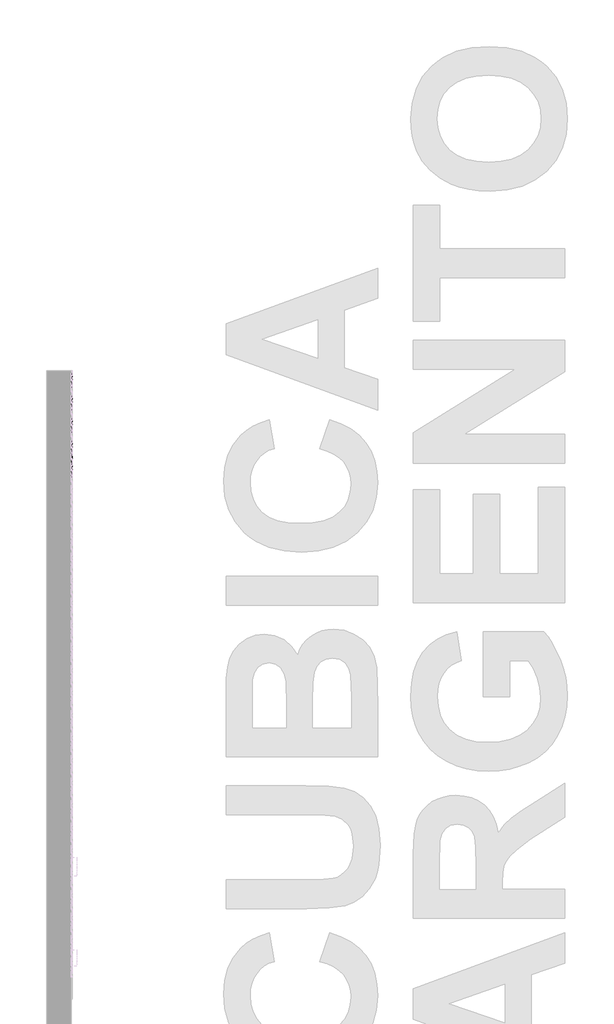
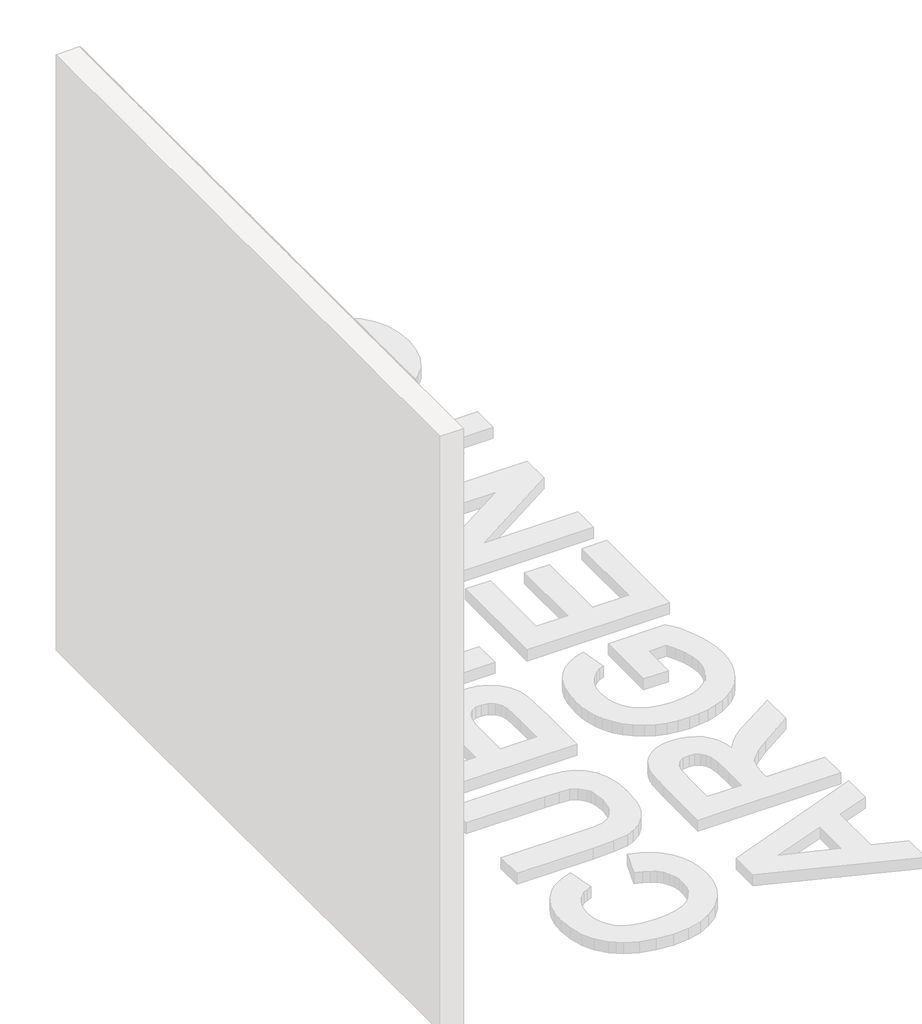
# One storey, part 22 of 121: 144 proxies.
"""IFC4 building model written with IfcOpenShell, lengths in millimetres."""

from ifc_helpers import new_model, si_unit, origin, place, context, project, spatial, transform, mapped, element, save
from components import generic_models_b2b2c5c1, generic_models_9bf73f6f, generic_models_5d175859, generic_models_336a48c1, generic_models_3c04e8e5, generic_models_61989c10, generic_models_7dea52c4

model = new_model("IFC4")

# Units and contexts
model_context = context("Model", 3, world=origin())
ifc_project = project(units=[si_unit("LENGTHUNIT", "METRE", prefix="MILLI")], contexts=[model_context])

# Site, building, storey
site = spatial("IfcSite", under=ifc_project)
building = spatial("IfcBuilding", under=site)
storey = spatial("IfcBuildingStorey", under=building, Name="PORTOBELLO - SHOWROOM", Elevation=0.0)

# Proxies
placement = place(None, origin())
generic_models_shape = generic_models_b2b2c5c1(model_context)
element("IfcBuildingElementProxy", 1, Name="PBSHOP - CUBICA ARGENTO 4,8X8,3 : CUBICA ARGENTO - POSIÇÃO 01", ObjectType="PBSHOP - CUBICA ARGENTO 4,8X8,3 : CUBICA ARGENTO - POSIÇÃO 01", at=placement, inside=storey, context=model_context, shape_type="MappedRepresentation", body=[
    mapped(generic_models_shape, transform((150369.5341846, -3859.9527156, 513.0299971), x_axis=(0.0, 1.0, 0.0), y_axis=(0.0, 0.0, 1.0), z_axis=(1.0, 0.0, 0.0))),
])
element("IfcBuildingElementProxy", 2, Name="PBSHOP - CUBICA ARGENTO 4,8X8,3 : CUBICA ARGENTO - POSIÇÃO 01", ObjectType="PBSHOP - CUBICA ARGENTO 4,8X8,3 : CUBICA ARGENTO - POSIÇÃO 01", at=placement, inside=storey, context=model_context, shape_type="MappedRepresentation", body=[
    mapped(generic_models_shape, transform((150369.5341846, -3769.1134464, 513.0299971), x_axis=(0.0, 1.0, 0.0), y_axis=(0.0, 0.0, 1.0), z_axis=(1.0, 0.0, 0.0))),
])
element("IfcBuildingElementProxy", 3, Name="PBSHOP - CUBICA ARGENTO 4,8X8,3 : CUBICA ARGENTO - POSIÇÃO 01", ObjectType="PBSHOP - CUBICA ARGENTO 4,8X8,3 : CUBICA ARGENTO - POSIÇÃO 01", at=placement, inside=storey, context=model_context, shape_type="MappedRepresentation", body=[
    mapped(generic_models_shape, transform((150369.5341846, -3678.2741771, 513.0299971), x_axis=(0.0, 1.0, 0.0), y_axis=(0.0, 0.0, 1.0), z_axis=(1.0, 0.0, 0.0))),
])
element("IfcBuildingElementProxy", 4, Name="PBSHOP - CUBICA ARGENTO 4,8X8,3 : CUBICA ARGENTO - POSIÇÃO 01", ObjectType="PBSHOP - CUBICA ARGENTO 4,8X8,3 : CUBICA ARGENTO - POSIÇÃO 01", at=placement, inside=storey, context=model_context, shape_type="MappedRepresentation", body=[
    mapped(generic_models_shape, transform((150369.5341846, -3996.2116195, 591.9646354), x_axis=(0.0, 1.0, 0.0), y_axis=(0.0, 0.0, 1.0), z_axis=(1.0, 0.0, 0.0))),
])
element("IfcBuildingElementProxy", 5, Name="PBSHOP - CUBICA ARGENTO 4,8X8,3 : CUBICA ARGENTO - POSIÇÃO 01", ObjectType="PBSHOP - CUBICA ARGENTO 4,8X8,3 : CUBICA ARGENTO - POSIÇÃO 01", at=placement, inside=storey, context=model_context, shape_type="MappedRepresentation", body=[
    mapped(generic_models_shape, transform((150369.5341846, -3905.3723502, 591.9646354), x_axis=(0.0, 1.0, 0.0), y_axis=(0.0, 0.0, 1.0), z_axis=(1.0, 0.0, 0.0))),
])
element("IfcBuildingElementProxy", 6, Name="PBSHOP - CUBICA ARGENTO 4,8X8,3 : CUBICA ARGENTO - POSIÇÃO 01", ObjectType="PBSHOP - CUBICA ARGENTO 4,8X8,3 : CUBICA ARGENTO - POSIÇÃO 01", at=placement, inside=storey, context=model_context, shape_type="MappedRepresentation", body=[
    mapped(generic_models_shape, transform((150369.5341846, -3814.533081, 591.9646354), x_axis=(0.0, 1.0, 0.0), y_axis=(0.0, 0.0, 1.0), z_axis=(1.0, 0.0, 0.0))),
])
element("IfcBuildingElementProxy", 7, Name="PBSHOP - CUBICA ARGENTO 4,8X8,3 : CUBICA ARGENTO - POSIÇÃO 01", ObjectType="PBSHOP - CUBICA ARGENTO 4,8X8,3 : CUBICA ARGENTO - POSIÇÃO 01", at=placement, inside=storey, context=model_context, shape_type="MappedRepresentation", body=[
    mapped(generic_models_shape, transform((150369.5341846, -3723.6938117, 591.9646354), x_axis=(0.0, 1.0, 0.0), y_axis=(0.0, 0.0, 1.0), z_axis=(1.0, 0.0, 0.0))),
])
element("IfcBuildingElementProxy", 8, Name="PBSHOP - CUBICA ARGENTO 4,8X8,3 : CUBICA ARGENTO - POSIÇÃO 01", ObjectType="PBSHOP - CUBICA ARGENTO 4,8X8,3 : CUBICA ARGENTO - POSIÇÃO 01", at=placement, inside=storey, context=model_context, shape_type="MappedRepresentation", body=[
    mapped(generic_models_shape, transform((150369.5341846, -3632.8545425, 591.9646354), x_axis=(0.0, 1.0, 0.0), y_axis=(0.0, 0.0, 1.0), z_axis=(1.0, 0.0, 0.0))),
])
element("IfcBuildingElementProxy", 9, Name="PBSHOP - CUBICA ARGENTO 4,8X8,3 : CUBICA ARGENTO - POSIÇÃO 01", ObjectType="PBSHOP - CUBICA ARGENTO 4,8X8,3 : CUBICA ARGENTO - POSIÇÃO 01", at=placement, inside=storey, context=model_context, shape_type="MappedRepresentation", body=[
    mapped(generic_models_shape, transform((150369.5341846, -3950.7919848, 670.8992738), x_axis=(0.0, 1.0, 0.0), y_axis=(0.0, 0.0, 1.0), z_axis=(1.0, 0.0, 0.0))),
])
element("IfcBuildingElementProxy", 10, Name="PBSHOP - CUBICA ARGENTO 4,8X8,3 : CUBICA ARGENTO - POSIÇÃO 01", ObjectType="PBSHOP - CUBICA ARGENTO 4,8X8,3 : CUBICA ARGENTO - POSIÇÃO 01", at=placement, inside=storey, context=model_context, shape_type="MappedRepresentation", body=[
    mapped(generic_models_shape, transform((150369.5341846, -3859.9527156, 670.8992738), x_axis=(0.0, 1.0, 0.0), y_axis=(0.0, 0.0, 1.0), z_axis=(1.0, 0.0, 0.0))),
])
element("IfcBuildingElementProxy", 11, Name="PBSHOP - CUBICA ARGENTO 4,8X8,3 : CUBICA ARGENTO - POSIÇÃO 01", ObjectType="PBSHOP - CUBICA ARGENTO 4,8X8,3 : CUBICA ARGENTO - POSIÇÃO 01", at=placement, inside=storey, context=model_context, shape_type="MappedRepresentation", body=[
    mapped(generic_models_shape, transform((150369.5341846, -3769.1134464, 670.8992738), x_axis=(0.0, 1.0, 0.0), y_axis=(0.0, 0.0, 1.0), z_axis=(1.0, 0.0, 0.0))),
])
element("IfcBuildingElementProxy", 12, Name="PBSHOP - CUBICA ARGENTO 4,8X8,3 : CUBICA ARGENTO - POSIÇÃO 01", ObjectType="PBSHOP - CUBICA ARGENTO 4,8X8,3 : CUBICA ARGENTO - POSIÇÃO 01", at=placement, inside=storey, context=model_context, shape_type="MappedRepresentation", body=[
    mapped(generic_models_shape, transform((150369.5341846, -3678.2741771, 670.8992738), x_axis=(0.0, 1.0, 0.0), y_axis=(0.0, 0.0, 1.0), z_axis=(1.0, 0.0, 0.0))),
])
element("IfcBuildingElementProxy", 13, Name="PBSHOP - CUBICA ARGENTO 4,8X8,3 : CUBICA ARGENTO - POSIÇÃO 01", ObjectType="PBSHOP - CUBICA ARGENTO 4,8X8,3 : CUBICA ARGENTO - POSIÇÃO 01", at=placement, inside=storey, context=model_context, shape_type="MappedRepresentation", body=[
    mapped(generic_models_shape, transform((150369.5341846, -3996.2116195, 749.8339122), x_axis=(0.0, 1.0, 0.0), y_axis=(0.0, 0.0, 1.0), z_axis=(1.0, 0.0, 0.0))),
])
element("IfcBuildingElementProxy", 14, Name="PBSHOP - CUBICA ARGENTO 4,8X8,3 : CUBICA ARGENTO - POSIÇÃO 01", ObjectType="PBSHOP - CUBICA ARGENTO 4,8X8,3 : CUBICA ARGENTO - POSIÇÃO 01", at=placement, inside=storey, context=model_context, shape_type="MappedRepresentation", body=[
    mapped(generic_models_shape, transform((150369.5341846, -3905.3723502, 749.8339122), x_axis=(0.0, 1.0, 0.0), y_axis=(0.0, 0.0, 1.0), z_axis=(1.0, 0.0, 0.0))),
])
element("IfcBuildingElementProxy", 15, Name="PBSHOP - CUBICA ARGENTO 4,8X8,3 : CUBICA ARGENTO - POSIÇÃO 01", ObjectType="PBSHOP - CUBICA ARGENTO 4,8X8,3 : CUBICA ARGENTO - POSIÇÃO 01", at=placement, inside=storey, context=model_context, shape_type="MappedRepresentation", body=[
    mapped(generic_models_shape, transform((150369.5341846, -3814.533081, 749.8339122), x_axis=(0.0, 1.0, 0.0), y_axis=(0.0, 0.0, 1.0), z_axis=(1.0, 0.0, 0.0))),
])
element("IfcBuildingElementProxy", 16, Name="PBSHOP - CUBICA ARGENTO 4,8X8,3 : CUBICA ARGENTO - POSIÇÃO 01", ObjectType="PBSHOP - CUBICA ARGENTO 4,8X8,3 : CUBICA ARGENTO - POSIÇÃO 01", at=placement, inside=storey, context=model_context, shape_type="MappedRepresentation", body=[
    mapped(generic_models_shape, transform((150369.5341846, -3723.6938117, 749.8339122), x_axis=(0.0, 1.0, 0.0), y_axis=(0.0, 0.0, 1.0), z_axis=(1.0, 0.0, 0.0))),
])
element("IfcBuildingElementProxy", 17, Name="PBSHOP - CUBICA ARGENTO 4,8X8,3 : CUBICA ARGENTO - POSIÇÃO 01", ObjectType="PBSHOP - CUBICA ARGENTO 4,8X8,3 : CUBICA ARGENTO - POSIÇÃO 01", at=placement, inside=storey, context=model_context, shape_type="MappedRepresentation", body=[
    mapped(generic_models_shape, transform((150369.5341846, -3632.8545425, 749.8339122), x_axis=(0.0, 1.0, 0.0), y_axis=(0.0, 0.0, 1.0), z_axis=(1.0, 0.0, 0.0))),
])
element("IfcBuildingElementProxy", 18, Name="PBSHOP - CUBICA ARGENTO 4,8X8,3 : CUBICA ARGENTO - POSIÇÃO 01", ObjectType="PBSHOP - CUBICA ARGENTO 4,8X8,3 : CUBICA ARGENTO - POSIÇÃO 01", at=placement, inside=storey, context=model_context, shape_type="MappedRepresentation", body=[
    mapped(generic_models_shape, transform((150369.5341846, -3950.7919848, 828.7685506), x_axis=(0.0, 1.0, 0.0), y_axis=(0.0, 0.0, 1.0), z_axis=(1.0, 0.0, 0.0))),
])
element("IfcBuildingElementProxy", 19, Name="PBSHOP - CUBICA ARGENTO 4,8X8,3 : CUBICA ARGENTO - POSIÇÃO 01", ObjectType="PBSHOP - CUBICA ARGENTO 4,8X8,3 : CUBICA ARGENTO - POSIÇÃO 01", at=placement, inside=storey, context=model_context, shape_type="MappedRepresentation", body=[
    mapped(generic_models_shape, transform((150369.5341846, -3859.9527156, 828.7685506), x_axis=(0.0, 1.0, 0.0), y_axis=(0.0, 0.0, 1.0), z_axis=(1.0, 0.0, 0.0))),
])
element("IfcBuildingElementProxy", 20, Name="PBSHOP - CUBICA ARGENTO 4,8X8,3 : CUBICA ARGENTO - POSIÇÃO 01", ObjectType="PBSHOP - CUBICA ARGENTO 4,8X8,3 : CUBICA ARGENTO - POSIÇÃO 01", at=placement, inside=storey, context=model_context, shape_type="MappedRepresentation", body=[
    mapped(generic_models_shape, transform((150369.5341846, -3769.1134464, 828.7685506), x_axis=(0.0, 1.0, 0.0), y_axis=(0.0, 0.0, 1.0), z_axis=(1.0, 0.0, 0.0))),
])
element("IfcBuildingElementProxy", 21, Name="PBSHOP - CUBICA ARGENTO 4,8X8,3 : CUBICA ARGENTO - POSIÇÃO 01", ObjectType="PBSHOP - CUBICA ARGENTO 4,8X8,3 : CUBICA ARGENTO - POSIÇÃO 01", at=placement, inside=storey, context=model_context, shape_type="MappedRepresentation", body=[
    mapped(generic_models_shape, transform((150369.5341846, -3678.2741771, 828.7685506), x_axis=(0.0, 1.0, 0.0), y_axis=(0.0, 0.0, 1.0), z_axis=(1.0, 0.0, 0.0))),
])
element("IfcBuildingElementProxy", 22, Name="PBSHOP - CUBICA ARGENTO 4,8X8,3 : CUBICA ARGENTO - POSIÇÃO 01", ObjectType="PBSHOP - CUBICA ARGENTO 4,8X8,3 : CUBICA ARGENTO - POSIÇÃO 01", at=placement, inside=storey, context=model_context, shape_type="MappedRepresentation", body=[
    mapped(generic_models_shape, transform((150369.5341846, -3996.2116195, 907.7031889), x_axis=(0.0, 1.0, 0.0), y_axis=(0.0, 0.0, 1.0), z_axis=(1.0, 0.0, 0.0))),
])
element("IfcBuildingElementProxy", 23, Name="PBSHOP - CUBICA ARGENTO 4,8X8,3 : CUBICA ARGENTO - POSIÇÃO 01", ObjectType="PBSHOP - CUBICA ARGENTO 4,8X8,3 : CUBICA ARGENTO - POSIÇÃO 01", at=placement, inside=storey, context=model_context, shape_type="MappedRepresentation", body=[
    mapped(generic_models_shape, transform((150369.5341846, -3905.3723502, 907.7031889), x_axis=(0.0, 1.0, 0.0), y_axis=(0.0, 0.0, 1.0), z_axis=(1.0, 0.0, 0.0))),
])
element("IfcBuildingElementProxy", 24, Name="PBSHOP - CUBICA ARGENTO 4,8X8,3 : CUBICA ARGENTO - POSIÇÃO 01", ObjectType="PBSHOP - CUBICA ARGENTO 4,8X8,3 : CUBICA ARGENTO - POSIÇÃO 01", at=placement, inside=storey, context=model_context, shape_type="MappedRepresentation", body=[
    mapped(generic_models_shape, transform((150369.5341846, -3814.533081, 907.7031889), x_axis=(0.0, 1.0, 0.0), y_axis=(0.0, 0.0, 1.0), z_axis=(1.0, 0.0, 0.0))),
])
element("IfcBuildingElementProxy", 25, Name="PBSHOP - CUBICA ARGENTO 4,8X8,3 : CUBICA ARGENTO - POSIÇÃO 01", ObjectType="PBSHOP - CUBICA ARGENTO 4,8X8,3 : CUBICA ARGENTO - POSIÇÃO 01", at=placement, inside=storey, context=model_context, shape_type="MappedRepresentation", body=[
    mapped(generic_models_shape, transform((150369.5341846, -3723.6938117, 907.7031889), x_axis=(0.0, 1.0, 0.0), y_axis=(0.0, 0.0, 1.0), z_axis=(1.0, 0.0, 0.0))),
])
element("IfcBuildingElementProxy", 26, Name="PBSHOP - CUBICA ARGENTO 4,8X8,3 : CUBICA ARGENTO - POSIÇÃO 01", ObjectType="PBSHOP - CUBICA ARGENTO 4,8X8,3 : CUBICA ARGENTO - POSIÇÃO 01", at=placement, inside=storey, context=model_context, shape_type="MappedRepresentation", body=[
    mapped(generic_models_shape, transform((150369.5341846, -3632.8545425, 907.7031889), x_axis=(0.0, 1.0, 0.0), y_axis=(0.0, 0.0, 1.0), z_axis=(1.0, 0.0, 0.0))),
])
element("IfcBuildingElementProxy", 27, Name="PBSHOP - CUBICA ARGENTO 4,8X8,3 : CUBICA ARGENTO - POSIÇÃO 01", ObjectType="PBSHOP - CUBICA ARGENTO 4,8X8,3 : CUBICA ARGENTO - POSIÇÃO 01", at=placement, inside=storey, context=model_context, shape_type="MappedRepresentation", body=[
    mapped(generic_models_shape, transform((150369.5341846, -3950.7919848, 986.6378273), x_axis=(0.0, 1.0, 0.0), y_axis=(0.0, 0.0, 1.0), z_axis=(1.0, 0.0, 0.0))),
])
element("IfcBuildingElementProxy", 28, Name="PBSHOP - CUBICA ARGENTO 4,8X8,3 : CUBICA ARGENTO - POSIÇÃO 01", ObjectType="PBSHOP - CUBICA ARGENTO 4,8X8,3 : CUBICA ARGENTO - POSIÇÃO 01", at=placement, inside=storey, context=model_context, shape_type="MappedRepresentation", body=[
    mapped(generic_models_shape, transform((150369.5341846, -3859.9527156, 986.6378273), x_axis=(0.0, 1.0, 0.0), y_axis=(0.0, 0.0, 1.0), z_axis=(1.0, 0.0, 0.0))),
])
element("IfcBuildingElementProxy", 29, Name="PBSHOP - CUBICA ARGENTO 4,8X8,3 : CUBICA ARGENTO - POSIÇÃO 01", ObjectType="PBSHOP - CUBICA ARGENTO 4,8X8,3 : CUBICA ARGENTO - POSIÇÃO 01", at=placement, inside=storey, context=model_context, shape_type="MappedRepresentation", body=[
    mapped(generic_models_shape, transform((150369.5341846, -3769.1134464, 986.6378273), x_axis=(0.0, 1.0, 0.0), y_axis=(0.0, 0.0, 1.0), z_axis=(1.0, 0.0, 0.0))),
])
element("IfcBuildingElementProxy", 30, Name="PBSHOP - CUBICA ARGENTO 4,8X8,3 : CUBICA ARGENTO - POSIÇÃO 01", ObjectType="PBSHOP - CUBICA ARGENTO 4,8X8,3 : CUBICA ARGENTO - POSIÇÃO 01", at=placement, inside=storey, context=model_context, shape_type="MappedRepresentation", body=[
    mapped(generic_models_shape, transform((150369.5341846, -3678.2741771, 986.6378273), x_axis=(0.0, 1.0, 0.0), y_axis=(0.0, 0.0, 1.0), z_axis=(1.0, 0.0, 0.0))),
])
element("IfcBuildingElementProxy", 31, Name="PBSHOP - CUBICA ARGENTO 4,8X8,3 : CUBICA ARGENTO - POSIÇÃO 01", ObjectType="PBSHOP - CUBICA ARGENTO 4,8X8,3 : CUBICA ARGENTO - POSIÇÃO 01", at=placement, inside=storey, context=model_context, shape_type="MappedRepresentation", body=[
    mapped(generic_models_shape, transform((150369.5341846, -3996.2116195, 1065.5724657), x_axis=(0.0, 1.0, 0.0), y_axis=(0.0, 0.0, 1.0), z_axis=(1.0, 0.0, 0.0))),
])
element("IfcBuildingElementProxy", 32, Name="PBSHOP - CUBICA ARGENTO 4,8X8,3 : CUBICA ARGENTO - POSIÇÃO 01", ObjectType="PBSHOP - CUBICA ARGENTO 4,8X8,3 : CUBICA ARGENTO - POSIÇÃO 01", at=placement, inside=storey, context=model_context, shape_type="MappedRepresentation", body=[
    mapped(generic_models_shape, transform((150369.5341846, -3905.3723502, 1065.5724657), x_axis=(0.0, 1.0, 0.0), y_axis=(0.0, 0.0, 1.0), z_axis=(1.0, 0.0, 0.0))),
])
element("IfcBuildingElementProxy", 33, Name="PBSHOP - CUBICA ARGENTO 4,8X8,3 : CUBICA ARGENTO - POSIÇÃO 01", ObjectType="PBSHOP - CUBICA ARGENTO 4,8X8,3 : CUBICA ARGENTO - POSIÇÃO 01", at=placement, inside=storey, context=model_context, shape_type="MappedRepresentation", body=[
    mapped(generic_models_shape, transform((150369.5341846, -3814.533081, 1065.5724657), x_axis=(0.0, 1.0, 0.0), y_axis=(0.0, 0.0, 1.0), z_axis=(1.0, 0.0, 0.0))),
])
element("IfcBuildingElementProxy", 34, Name="PBSHOP - CUBICA ARGENTO 4,8X8,3 : CUBICA ARGENTO - POSIÇÃO 01", ObjectType="PBSHOP - CUBICA ARGENTO 4,8X8,3 : CUBICA ARGENTO - POSIÇÃO 01", at=placement, inside=storey, context=model_context, shape_type="MappedRepresentation", body=[
    mapped(generic_models_shape, transform((150369.5341846, -3723.6938117, 1065.5724657), x_axis=(0.0, 1.0, 0.0), y_axis=(0.0, 0.0, 1.0), z_axis=(1.0, 0.0, 0.0))),
])
element("IfcBuildingElementProxy", 35, Name="PBSHOP - CUBICA ARGENTO 4,8X8,3 : CUBICA ARGENTO - POSIÇÃO 01", ObjectType="PBSHOP - CUBICA ARGENTO 4,8X8,3 : CUBICA ARGENTO - POSIÇÃO 01", at=placement, inside=storey, context=model_context, shape_type="MappedRepresentation", body=[
    mapped(generic_models_shape, transform((150369.5341846, -3632.8545425, 1065.5724657), x_axis=(0.0, 1.0, 0.0), y_axis=(0.0, 0.0, 1.0), z_axis=(1.0, 0.0, 0.0))),
])
element("IfcBuildingElementProxy", 36, Name="PBSHOP - CUBICA ARGENTO 4,8X8,3 : CUBICA ARGENTO - POSIÇÃO 01", ObjectType="PBSHOP - CUBICA ARGENTO 4,8X8,3 : CUBICA ARGENTO - POSIÇÃO 01", at=placement, inside=storey, context=model_context, shape_type="MappedRepresentation", body=[
    mapped(generic_models_shape, transform((150369.5341846, -3950.7919848, 1144.507104), x_axis=(0.0, 1.0, 0.0), y_axis=(0.0, 0.0, 1.0), z_axis=(1.0, 0.0, 0.0))),
])
element("IfcBuildingElementProxy", 37, Name="PBSHOP - CUBICA ARGENTO 4,8X8,3 : CUBICA ARGENTO - POSIÇÃO 01", ObjectType="PBSHOP - CUBICA ARGENTO 4,8X8,3 : CUBICA ARGENTO - POSIÇÃO 01", at=placement, inside=storey, context=model_context, shape_type="MappedRepresentation", body=[
    mapped(generic_models_shape, transform((150369.5341846, -3859.9527156, 1144.507104), x_axis=(0.0, 1.0, 0.0), y_axis=(0.0, 0.0, 1.0), z_axis=(1.0, 0.0, 0.0))),
])
element("IfcBuildingElementProxy", 38, Name="PBSHOP - CUBICA ARGENTO 4,8X8,3 : CUBICA ARGENTO - POSIÇÃO 01", ObjectType="PBSHOP - CUBICA ARGENTO 4,8X8,3 : CUBICA ARGENTO - POSIÇÃO 01", at=placement, inside=storey, context=model_context, shape_type="MappedRepresentation", body=[
    mapped(generic_models_shape, transform((150369.5341846, -3769.1134464, 1144.507104), x_axis=(0.0, 1.0, 0.0), y_axis=(0.0, 0.0, 1.0), z_axis=(1.0, 0.0, 0.0))),
])
element("IfcBuildingElementProxy", 39, Name="PBSHOP - CUBICA ARGENTO 4,8X8,3 : CUBICA ARGENTO - POSIÇÃO 01", ObjectType="PBSHOP - CUBICA ARGENTO 4,8X8,3 : CUBICA ARGENTO - POSIÇÃO 01", at=placement, inside=storey, context=model_context, shape_type="MappedRepresentation", body=[
    mapped(generic_models_shape, transform((150369.5341846, -3678.2741771, 1144.507104), x_axis=(0.0, 1.0, 0.0), y_axis=(0.0, 0.0, 1.0), z_axis=(1.0, 0.0, 0.0))),
])
element("IfcBuildingElementProxy", 40, Name="PBSHOP - CUBICA ARGENTO 4,8X8,3 : CUBICA ARGENTO - POSIÇÃO 01", ObjectType="PBSHOP - CUBICA ARGENTO 4,8X8,3 : CUBICA ARGENTO - POSIÇÃO 01", at=placement, inside=storey, context=model_context, shape_type="MappedRepresentation", body=[
    mapped(generic_models_shape, transform((150369.5341846, -3996.2116195, 1223.4417424), x_axis=(0.0, 1.0, 0.0), y_axis=(0.0, 0.0, 1.0), z_axis=(1.0, 0.0, 0.0))),
])
element("IfcBuildingElementProxy", 41, Name="PBSHOP - CUBICA ARGENTO 4,8X8,3 : CUBICA ARGENTO - POSIÇÃO 01", ObjectType="PBSHOP - CUBICA ARGENTO 4,8X8,3 : CUBICA ARGENTO - POSIÇÃO 01", at=placement, inside=storey, context=model_context, shape_type="MappedRepresentation", body=[
    mapped(generic_models_shape, transform((150369.5341846, -3905.3723502, 1223.4417424), x_axis=(0.0, 1.0, 0.0), y_axis=(0.0, 0.0, 1.0), z_axis=(1.0, 0.0, 0.0))),
])
element("IfcBuildingElementProxy", 42, Name="PBSHOP - CUBICA ARGENTO 4,8X8,3 : CUBICA ARGENTO - POSIÇÃO 01", ObjectType="PBSHOP - CUBICA ARGENTO 4,8X8,3 : CUBICA ARGENTO - POSIÇÃO 01", at=placement, inside=storey, context=model_context, shape_type="MappedRepresentation", body=[
    mapped(generic_models_shape, transform((150369.5341846, -3814.533081, 1223.4417424), x_axis=(0.0, 1.0, 0.0), y_axis=(0.0, 0.0, 1.0), z_axis=(1.0, 0.0, 0.0))),
])
element("IfcBuildingElementProxy", 43, Name="PBSHOP - CUBICA ARGENTO 4,8X8,3 : CUBICA ARGENTO - POSIÇÃO 01", ObjectType="PBSHOP - CUBICA ARGENTO 4,8X8,3 : CUBICA ARGENTO - POSIÇÃO 01", at=placement, inside=storey, context=model_context, shape_type="MappedRepresentation", body=[
    mapped(generic_models_shape, transform((150369.5341846, -3723.6938117, 1223.4417424), x_axis=(0.0, 1.0, 0.0), y_axis=(0.0, 0.0, 1.0), z_axis=(1.0, 0.0, 0.0))),
])
element("IfcBuildingElementProxy", 44, Name="PBSHOP - CUBICA ARGENTO 4,8X8,3 : CUBICA ARGENTO - POSIÇÃO 01", ObjectType="PBSHOP - CUBICA ARGENTO 4,8X8,3 : CUBICA ARGENTO - POSIÇÃO 01", at=placement, inside=storey, context=model_context, shape_type="MappedRepresentation", body=[
    mapped(generic_models_shape, transform((150369.5341846, -3632.8545425, 1223.4417424), x_axis=(0.0, 1.0, 0.0), y_axis=(0.0, 0.0, 1.0), z_axis=(1.0, 0.0, 0.0))),
])
generic_models_2_shape = generic_models_9bf73f6f(model_context)
element("IfcBuildingElementProxy", 45, Name="PBSHOP - CUBICA ARGENTO 4,8X8,3 : CUBICA ARGENTO - POSIÇÃO 03", ObjectType="PBSHOP - CUBICA ARGENTO 4,8X8,3 : CUBICA ARGENTO - POSIÇÃO 03", at=placement, inside=storey, context=model_context, shape_type="MappedRepresentation", body=[
    mapped(generic_models_2_shape, transform((150369.5341846, -3973.499643, 473.5214674), x_axis=(0.0, 1.0, 0.0), y_axis=(0.0, 0.0, 1.0), z_axis=(1.0, 0.0, 0.0))),
])
element("IfcBuildingElementProxy", 46, Name="PBSHOP - CUBICA ARGENTO 4,8X8,3 : CUBICA ARGENTO - POSIÇÃO 03", ObjectType="PBSHOP - CUBICA ARGENTO 4,8X8,3 : CUBICA ARGENTO - POSIÇÃO 03", at=placement, inside=storey, context=model_context, shape_type="MappedRepresentation", body=[
    mapped(generic_models_2_shape, transform((150369.5341846, -3882.6603737, 473.5214674), x_axis=(0.0, 1.0, 0.0), y_axis=(0.0, 0.0, 1.0), z_axis=(1.0, 0.0, 0.0))),
])
element("IfcBuildingElementProxy", 47, Name="PBSHOP - CUBICA ARGENTO 4,8X8,3 : CUBICA ARGENTO - POSIÇÃO 03", ObjectType="PBSHOP - CUBICA ARGENTO 4,8X8,3 : CUBICA ARGENTO - POSIÇÃO 03", at=placement, inside=storey, context=model_context, shape_type="MappedRepresentation", body=[
    mapped(generic_models_2_shape, transform((150369.5341846, -3791.8211045, 473.5214674), x_axis=(0.0, 1.0, 0.0), y_axis=(0.0, 0.0, 1.0), z_axis=(1.0, 0.0, 0.0))),
])
element("IfcBuildingElementProxy", 48, Name="PBSHOP - CUBICA ARGENTO 4,8X8,3 : CUBICA ARGENTO - POSIÇÃO 03", ObjectType="PBSHOP - CUBICA ARGENTO 4,8X8,3 : CUBICA ARGENTO - POSIÇÃO 03", at=placement, inside=storey, context=model_context, shape_type="MappedRepresentation", body=[
    mapped(generic_models_2_shape, transform((150369.5341846, -3700.9818353, 473.5214674), x_axis=(0.0, 1.0, 0.0), y_axis=(0.0, 0.0, 1.0), z_axis=(1.0, 0.0, 0.0))),
])
element("IfcBuildingElementProxy", 49, Name="PBSHOP - CUBICA ARGENTO 4,8X8,3 : CUBICA ARGENTO - POSIÇÃO 03", ObjectType="PBSHOP - CUBICA ARGENTO 4,8X8,3 : CUBICA ARGENTO - POSIÇÃO 03", at=placement, inside=storey, context=model_context, shape_type="MappedRepresentation", body=[
    mapped(generic_models_2_shape, transform((150369.5341846, -3928.0800084, 552.4561058), x_axis=(0.0, 1.0, 0.0), y_axis=(0.0, 0.0, 1.0), z_axis=(1.0, 0.0, 0.0))),
])
element("IfcBuildingElementProxy", 50, Name="PBSHOP - CUBICA ARGENTO 4,8X8,3 : CUBICA ARGENTO - POSIÇÃO 03", ObjectType="PBSHOP - CUBICA ARGENTO 4,8X8,3 : CUBICA ARGENTO - POSIÇÃO 03", at=placement, inside=storey, context=model_context, shape_type="MappedRepresentation", body=[
    mapped(generic_models_2_shape, transform((150369.5341846, -3837.2407391, 552.4561058), x_axis=(0.0, 1.0, 0.0), y_axis=(0.0, 0.0, 1.0), z_axis=(1.0, 0.0, 0.0))),
])
element("IfcBuildingElementProxy", 51, Name="PBSHOP - CUBICA ARGENTO 4,8X8,3 : CUBICA ARGENTO - POSIÇÃO 03", ObjectType="PBSHOP - CUBICA ARGENTO 4,8X8,3 : CUBICA ARGENTO - POSIÇÃO 03", at=placement, inside=storey, context=model_context, shape_type="MappedRepresentation", body=[
    mapped(generic_models_2_shape, transform((150369.5341846, -3746.4014699, 552.4561058), x_axis=(0.0, 1.0, 0.0), y_axis=(0.0, 0.0, 1.0), z_axis=(1.0, 0.0, 0.0))),
])
element("IfcBuildingElementProxy", 52, Name="PBSHOP - CUBICA ARGENTO 4,8X8,3 : CUBICA ARGENTO - POSIÇÃO 03", ObjectType="PBSHOP - CUBICA ARGENTO 4,8X8,3 : CUBICA ARGENTO - POSIÇÃO 03", at=placement, inside=storey, context=model_context, shape_type="MappedRepresentation", body=[
    mapped(generic_models_2_shape, transform((150369.5341846, -3655.5622006, 552.4561058), x_axis=(0.0, 1.0, 0.0), y_axis=(0.0, 0.0, 1.0), z_axis=(1.0, 0.0, 0.0))),
])
element("IfcBuildingElementProxy", 53, Name="PBSHOP - CUBICA ARGENTO 4,8X8,3 : CUBICA ARGENTO - POSIÇÃO 03", ObjectType="PBSHOP - CUBICA ARGENTO 4,8X8,3 : CUBICA ARGENTO - POSIÇÃO 03", at=placement, inside=storey, context=model_context, shape_type="MappedRepresentation", body=[
    mapped(generic_models_2_shape, transform((150369.5341846, -3973.499643, 631.3907442), x_axis=(0.0, 1.0, 0.0), y_axis=(0.0, 0.0, 1.0), z_axis=(1.0, 0.0, 0.0))),
])
element("IfcBuildingElementProxy", 54, Name="PBSHOP - CUBICA ARGENTO 4,8X8,3 : CUBICA ARGENTO - POSIÇÃO 03", ObjectType="PBSHOP - CUBICA ARGENTO 4,8X8,3 : CUBICA ARGENTO - POSIÇÃO 03", at=placement, inside=storey, context=model_context, shape_type="MappedRepresentation", body=[
    mapped(generic_models_2_shape, transform((150369.5341846, -3882.6603737, 631.3907442), x_axis=(0.0, 1.0, 0.0), y_axis=(0.0, 0.0, 1.0), z_axis=(1.0, 0.0, 0.0))),
])
element("IfcBuildingElementProxy", 55, Name="PBSHOP - CUBICA ARGENTO 4,8X8,3 : CUBICA ARGENTO - POSIÇÃO 03", ObjectType="PBSHOP - CUBICA ARGENTO 4,8X8,3 : CUBICA ARGENTO - POSIÇÃO 03", at=placement, inside=storey, context=model_context, shape_type="MappedRepresentation", body=[
    mapped(generic_models_2_shape, transform((150369.5341846, -3791.8211045, 631.3907442), x_axis=(0.0, 1.0, 0.0), y_axis=(0.0, 0.0, 1.0), z_axis=(1.0, 0.0, 0.0))),
])
element("IfcBuildingElementProxy", 56, Name="PBSHOP - CUBICA ARGENTO 4,8X8,3 : CUBICA ARGENTO - POSIÇÃO 03", ObjectType="PBSHOP - CUBICA ARGENTO 4,8X8,3 : CUBICA ARGENTO - POSIÇÃO 03", at=placement, inside=storey, context=model_context, shape_type="MappedRepresentation", body=[
    mapped(generic_models_2_shape, transform((150369.5341846, -3700.9818353, 631.3907442), x_axis=(0.0, 1.0, 0.0), y_axis=(0.0, 0.0, 1.0), z_axis=(1.0, 0.0, 0.0))),
])
element("IfcBuildingElementProxy", 57, Name="PBSHOP - CUBICA ARGENTO 4,8X8,3 : CUBICA ARGENTO - POSIÇÃO 03", ObjectType="PBSHOP - CUBICA ARGENTO 4,8X8,3 : CUBICA ARGENTO - POSIÇÃO 03", at=placement, inside=storey, context=model_context, shape_type="MappedRepresentation", body=[
    mapped(generic_models_2_shape, transform((150369.5341846, -3928.0800084, 710.3253826), x_axis=(0.0, 1.0, 0.0), y_axis=(0.0, 0.0, 1.0), z_axis=(1.0, 0.0, 0.0))),
])
element("IfcBuildingElementProxy", 58, Name="PBSHOP - CUBICA ARGENTO 4,8X8,3 : CUBICA ARGENTO - POSIÇÃO 03", ObjectType="PBSHOP - CUBICA ARGENTO 4,8X8,3 : CUBICA ARGENTO - POSIÇÃO 03", at=placement, inside=storey, context=model_context, shape_type="MappedRepresentation", body=[
    mapped(generic_models_2_shape, transform((150369.5341846, -3837.2407391, 710.3253826), x_axis=(0.0, 1.0, 0.0), y_axis=(0.0, 0.0, 1.0), z_axis=(1.0, 0.0, 0.0))),
])
element("IfcBuildingElementProxy", 59, Name="PBSHOP - CUBICA ARGENTO 4,8X8,3 : CUBICA ARGENTO - POSIÇÃO 03", ObjectType="PBSHOP - CUBICA ARGENTO 4,8X8,3 : CUBICA ARGENTO - POSIÇÃO 03", at=placement, inside=storey, context=model_context, shape_type="MappedRepresentation", body=[
    mapped(generic_models_2_shape, transform((150369.5341846, -3746.4014699, 710.3253826), x_axis=(0.0, 1.0, 0.0), y_axis=(0.0, 0.0, 1.0), z_axis=(1.0, 0.0, 0.0))),
])
element("IfcBuildingElementProxy", 60, Name="PBSHOP - CUBICA ARGENTO 4,8X8,3 : CUBICA ARGENTO - POSIÇÃO 03", ObjectType="PBSHOP - CUBICA ARGENTO 4,8X8,3 : CUBICA ARGENTO - POSIÇÃO 03", at=placement, inside=storey, context=model_context, shape_type="MappedRepresentation", body=[
    mapped(generic_models_2_shape, transform((150369.5341846, -3655.5622006, 710.3253826), x_axis=(0.0, 1.0, 0.0), y_axis=(0.0, 0.0, 1.0), z_axis=(1.0, 0.0, 0.0))),
])
element("IfcBuildingElementProxy", 61, Name="PBSHOP - CUBICA ARGENTO 4,8X8,3 : CUBICA ARGENTO - POSIÇÃO 03", ObjectType="PBSHOP - CUBICA ARGENTO 4,8X8,3 : CUBICA ARGENTO - POSIÇÃO 03", at=placement, inside=storey, context=model_context, shape_type="MappedRepresentation", body=[
    mapped(generic_models_2_shape, transform((150369.5341846, -3973.499643, 789.2600209), x_axis=(0.0, 1.0, 0.0), y_axis=(0.0, 0.0, 1.0), z_axis=(1.0, 0.0, 0.0))),
])
element("IfcBuildingElementProxy", 62, Name="PBSHOP - CUBICA ARGENTO 4,8X8,3 : CUBICA ARGENTO - POSIÇÃO 03", ObjectType="PBSHOP - CUBICA ARGENTO 4,8X8,3 : CUBICA ARGENTO - POSIÇÃO 03", at=placement, inside=storey, context=model_context, shape_type="MappedRepresentation", body=[
    mapped(generic_models_2_shape, transform((150369.5341846, -3882.6603737, 789.2600209), x_axis=(0.0, 1.0, 0.0), y_axis=(0.0, 0.0, 1.0), z_axis=(1.0, 0.0, 0.0))),
])
element("IfcBuildingElementProxy", 63, Name="PBSHOP - CUBICA ARGENTO 4,8X8,3 : CUBICA ARGENTO - POSIÇÃO 03", ObjectType="PBSHOP - CUBICA ARGENTO 4,8X8,3 : CUBICA ARGENTO - POSIÇÃO 03", at=placement, inside=storey, context=model_context, shape_type="MappedRepresentation", body=[
    mapped(generic_models_2_shape, transform((150369.5341846, -3791.8211045, 789.2600209), x_axis=(0.0, 1.0, 0.0), y_axis=(0.0, 0.0, 1.0), z_axis=(1.0, 0.0, 0.0))),
])
element("IfcBuildingElementProxy", 64, Name="PBSHOP - CUBICA ARGENTO 4,8X8,3 : CUBICA ARGENTO - POSIÇÃO 03", ObjectType="PBSHOP - CUBICA ARGENTO 4,8X8,3 : CUBICA ARGENTO - POSIÇÃO 03", at=placement, inside=storey, context=model_context, shape_type="MappedRepresentation", body=[
    mapped(generic_models_2_shape, transform((150369.5341846, -3700.9818353, 789.2600209), x_axis=(0.0, 1.0, 0.0), y_axis=(0.0, 0.0, 1.0), z_axis=(1.0, 0.0, 0.0))),
])
element("IfcBuildingElementProxy", 65, Name="PBSHOP - CUBICA ARGENTO 4,8X8,3 : CUBICA ARGENTO - POSIÇÃO 03", ObjectType="PBSHOP - CUBICA ARGENTO 4,8X8,3 : CUBICA ARGENTO - POSIÇÃO 03", at=placement, inside=storey, context=model_context, shape_type="MappedRepresentation", body=[
    mapped(generic_models_2_shape, transform((150369.5341846, -3928.0800084, 868.1946593), x_axis=(0.0, 1.0, 0.0), y_axis=(0.0, 0.0, 1.0), z_axis=(1.0, 0.0, 0.0))),
])
element("IfcBuildingElementProxy", 66, Name="PBSHOP - CUBICA ARGENTO 4,8X8,3 : CUBICA ARGENTO - POSIÇÃO 03", ObjectType="PBSHOP - CUBICA ARGENTO 4,8X8,3 : CUBICA ARGENTO - POSIÇÃO 03", at=placement, inside=storey, context=model_context, shape_type="MappedRepresentation", body=[
    mapped(generic_models_2_shape, transform((150369.5341846, -3837.2407391, 868.1946593), x_axis=(0.0, 1.0, 0.0), y_axis=(0.0, 0.0, 1.0), z_axis=(1.0, 0.0, 0.0))),
])
element("IfcBuildingElementProxy", 67, Name="PBSHOP - CUBICA ARGENTO 4,8X8,3 : CUBICA ARGENTO - POSIÇÃO 03", ObjectType="PBSHOP - CUBICA ARGENTO 4,8X8,3 : CUBICA ARGENTO - POSIÇÃO 03", at=placement, inside=storey, context=model_context, shape_type="MappedRepresentation", body=[
    mapped(generic_models_2_shape, transform((150369.5341846, -3746.4014699, 868.1946593), x_axis=(0.0, 1.0, 0.0), y_axis=(0.0, 0.0, 1.0), z_axis=(1.0, 0.0, 0.0))),
])
element("IfcBuildingElementProxy", 68, Name="PBSHOP - CUBICA ARGENTO 4,8X8,3 : CUBICA ARGENTO - POSIÇÃO 03", ObjectType="PBSHOP - CUBICA ARGENTO 4,8X8,3 : CUBICA ARGENTO - POSIÇÃO 03", at=placement, inside=storey, context=model_context, shape_type="MappedRepresentation", body=[
    mapped(generic_models_2_shape, transform((150369.5341846, -3655.5622006, 868.1946593), x_axis=(0.0, 1.0, 0.0), y_axis=(0.0, 0.0, 1.0), z_axis=(1.0, 0.0, 0.0))),
])
element("IfcBuildingElementProxy", 69, Name="PBSHOP - CUBICA ARGENTO 4,8X8,3 : CUBICA ARGENTO - POSIÇÃO 03", ObjectType="PBSHOP - CUBICA ARGENTO 4,8X8,3 : CUBICA ARGENTO - POSIÇÃO 03", at=placement, inside=storey, context=model_context, shape_type="MappedRepresentation", body=[
    mapped(generic_models_2_shape, transform((150369.5341846, -3973.499643, 947.1292977), x_axis=(0.0, 1.0, 0.0), y_axis=(0.0, 0.0, 1.0), z_axis=(1.0, 0.0, 0.0))),
])
element("IfcBuildingElementProxy", 70, Name="PBSHOP - CUBICA ARGENTO 4,8X8,3 : CUBICA ARGENTO - POSIÇÃO 03", ObjectType="PBSHOP - CUBICA ARGENTO 4,8X8,3 : CUBICA ARGENTO - POSIÇÃO 03", at=placement, inside=storey, context=model_context, shape_type="MappedRepresentation", body=[
    mapped(generic_models_2_shape, transform((150369.5341846, -3882.6603737, 947.1292977), x_axis=(0.0, 1.0, 0.0), y_axis=(0.0, 0.0, 1.0), z_axis=(1.0, 0.0, 0.0))),
])
element("IfcBuildingElementProxy", 71, Name="PBSHOP - CUBICA ARGENTO 4,8X8,3 : CUBICA ARGENTO - POSIÇÃO 03", ObjectType="PBSHOP - CUBICA ARGENTO 4,8X8,3 : CUBICA ARGENTO - POSIÇÃO 03", at=placement, inside=storey, context=model_context, shape_type="MappedRepresentation", body=[
    mapped(generic_models_2_shape, transform((150369.5341846, -3791.8211045, 947.1292977), x_axis=(0.0, 1.0, 0.0), y_axis=(0.0, 0.0, 1.0), z_axis=(1.0, 0.0, 0.0))),
])
element("IfcBuildingElementProxy", 72, Name="PBSHOP - CUBICA ARGENTO 4,8X8,3 : CUBICA ARGENTO - POSIÇÃO 03", ObjectType="PBSHOP - CUBICA ARGENTO 4,8X8,3 : CUBICA ARGENTO - POSIÇÃO 03", at=placement, inside=storey, context=model_context, shape_type="MappedRepresentation", body=[
    mapped(generic_models_2_shape, transform((150369.5341846, -3700.9818353, 947.1292977), x_axis=(0.0, 1.0, 0.0), y_axis=(0.0, 0.0, 1.0), z_axis=(1.0, 0.0, 0.0))),
])
element("IfcBuildingElementProxy", 73, Name="PBSHOP - CUBICA ARGENTO 4,8X8,3 : CUBICA ARGENTO - POSIÇÃO 03", ObjectType="PBSHOP - CUBICA ARGENTO 4,8X8,3 : CUBICA ARGENTO - POSIÇÃO 03", at=placement, inside=storey, context=model_context, shape_type="MappedRepresentation", body=[
    mapped(generic_models_2_shape, transform((150369.5341846, -3928.0800084, 1026.0639361), x_axis=(0.0, 1.0, 0.0), y_axis=(0.0, 0.0, 1.0), z_axis=(1.0, 0.0, 0.0))),
])
element("IfcBuildingElementProxy", 74, Name="PBSHOP - CUBICA ARGENTO 4,8X8,3 : CUBICA ARGENTO - POSIÇÃO 03", ObjectType="PBSHOP - CUBICA ARGENTO 4,8X8,3 : CUBICA ARGENTO - POSIÇÃO 03", at=placement, inside=storey, context=model_context, shape_type="MappedRepresentation", body=[
    mapped(generic_models_2_shape, transform((150369.5341846, -3837.2407391, 1026.0639361), x_axis=(0.0, 1.0, 0.0), y_axis=(0.0, 0.0, 1.0), z_axis=(1.0, 0.0, 0.0))),
])
element("IfcBuildingElementProxy", 75, Name="PBSHOP - CUBICA ARGENTO 4,8X8,3 : CUBICA ARGENTO - POSIÇÃO 03", ObjectType="PBSHOP - CUBICA ARGENTO 4,8X8,3 : CUBICA ARGENTO - POSIÇÃO 03", at=placement, inside=storey, context=model_context, shape_type="MappedRepresentation", body=[
    mapped(generic_models_2_shape, transform((150369.5341846, -3746.4014699, 1026.0639361), x_axis=(0.0, 1.0, 0.0), y_axis=(0.0, 0.0, 1.0), z_axis=(1.0, 0.0, 0.0))),
])
element("IfcBuildingElementProxy", 76, Name="PBSHOP - CUBICA ARGENTO 4,8X8,3 : CUBICA ARGENTO - POSIÇÃO 03", ObjectType="PBSHOP - CUBICA ARGENTO 4,8X8,3 : CUBICA ARGENTO - POSIÇÃO 03", at=placement, inside=storey, context=model_context, shape_type="MappedRepresentation", body=[
    mapped(generic_models_2_shape, transform((150369.5341846, -3655.5622006, 1026.0639361), x_axis=(0.0, 1.0, 0.0), y_axis=(0.0, 0.0, 1.0), z_axis=(1.0, 0.0, 0.0))),
])
element("IfcBuildingElementProxy", 77, Name="PBSHOP - CUBICA ARGENTO 4,8X8,3 : CUBICA ARGENTO - POSIÇÃO 03", ObjectType="PBSHOP - CUBICA ARGENTO 4,8X8,3 : CUBICA ARGENTO - POSIÇÃO 03", at=placement, inside=storey, context=model_context, shape_type="MappedRepresentation", body=[
    mapped(generic_models_2_shape, transform((150369.5341846, -3973.499643, 1104.9985744), x_axis=(0.0, 1.0, 0.0), y_axis=(0.0, 0.0, 1.0), z_axis=(1.0, 0.0, 0.0))),
])
element("IfcBuildingElementProxy", 78, Name="PBSHOP - CUBICA ARGENTO 4,8X8,3 : CUBICA ARGENTO - POSIÇÃO 03", ObjectType="PBSHOP - CUBICA ARGENTO 4,8X8,3 : CUBICA ARGENTO - POSIÇÃO 03", at=placement, inside=storey, context=model_context, shape_type="MappedRepresentation", body=[
    mapped(generic_models_2_shape, transform((150369.5341846, -3882.6603737, 1104.9985744), x_axis=(0.0, 1.0, 0.0), y_axis=(0.0, 0.0, 1.0), z_axis=(1.0, 0.0, 0.0))),
])
element("IfcBuildingElementProxy", 79, Name="PBSHOP - CUBICA ARGENTO 4,8X8,3 : CUBICA ARGENTO - POSIÇÃO 03", ObjectType="PBSHOP - CUBICA ARGENTO 4,8X8,3 : CUBICA ARGENTO - POSIÇÃO 03", at=placement, inside=storey, context=model_context, shape_type="MappedRepresentation", body=[
    mapped(generic_models_2_shape, transform((150369.5341846, -3791.8211045, 1104.9985744), x_axis=(0.0, 1.0, 0.0), y_axis=(0.0, 0.0, 1.0), z_axis=(1.0, 0.0, 0.0))),
])
element("IfcBuildingElementProxy", 80, Name="PBSHOP - CUBICA ARGENTO 4,8X8,3 : CUBICA ARGENTO - POSIÇÃO 03", ObjectType="PBSHOP - CUBICA ARGENTO 4,8X8,3 : CUBICA ARGENTO - POSIÇÃO 03", at=placement, inside=storey, context=model_context, shape_type="MappedRepresentation", body=[
    mapped(generic_models_2_shape, transform((150369.5341846, -3700.9818353, 1104.9985744), x_axis=(0.0, 1.0, 0.0), y_axis=(0.0, 0.0, 1.0), z_axis=(1.0, 0.0, 0.0))),
])
element("IfcBuildingElementProxy", 81, Name="PBSHOP - CUBICA ARGENTO 4,8X8,3 : CUBICA ARGENTO - POSIÇÃO 03", ObjectType="PBSHOP - CUBICA ARGENTO 4,8X8,3 : CUBICA ARGENTO - POSIÇÃO 03", at=placement, inside=storey, context=model_context, shape_type="MappedRepresentation", body=[
    mapped(generic_models_2_shape, transform((150369.5341846, -3928.0800084, 1183.9332128), x_axis=(0.0, 1.0, 0.0), y_axis=(0.0, 0.0, 1.0), z_axis=(1.0, 0.0, 0.0))),
])
generic_models_3_shape = generic_models_5d175859(model_context)
element("IfcBuildingElementProxy", 82, Name="PBSHOP - CUBICA ARGENTO 4,8X8,3 : CUBICA ARGENTO - POSIÇÃO 01", ObjectType="PBSHOP - CUBICA ARGENTO 4,8X8,3 : CUBICA ARGENTO - POSIÇÃO 01", at=placement, inside=storey, context=model_context, shape_type="MappedRepresentation", body=[
    mapped(generic_models_3_shape, transform((150369.5341846, -3905.3680319, 513.0299971), x_axis=(0.0, -1.0, 0.0), y_axis=(0.0, 0.0, -1.0), z_axis=(1.0, 0.0, 0.0))),
])
element("IfcBuildingElementProxy", 83, Name="PBSHOP - CUBICA ARGENTO 4,8X8,3 : CUBICA ARGENTO - POSIÇÃO 01", ObjectType="PBSHOP - CUBICA ARGENTO 4,8X8,3 : CUBICA ARGENTO - POSIÇÃO 01", at=placement, inside=storey, context=model_context, shape_type="MappedRepresentation", body=[
    mapped(generic_models_3_shape, transform((150369.5341846, -3814.5287626, 513.0299971), x_axis=(0.0, -1.0, 0.0), y_axis=(0.0, 0.0, -1.0), z_axis=(1.0, 0.0, 0.0))),
])
element("IfcBuildingElementProxy", 84, Name="PBSHOP - CUBICA ARGENTO 4,8X8,3 : CUBICA ARGENTO - POSIÇÃO 01", ObjectType="PBSHOP - CUBICA ARGENTO 4,8X8,3 : CUBICA ARGENTO - POSIÇÃO 01", at=placement, inside=storey, context=model_context, shape_type="MappedRepresentation", body=[
    mapped(generic_models_3_shape, transform((150369.5341846, -3723.6894934, 513.0299971), x_axis=(0.0, -1.0, 0.0), y_axis=(0.0, 0.0, -1.0), z_axis=(1.0, 0.0, 0.0))),
])
element("IfcBuildingElementProxy", 85, Name="PBSHOP - CUBICA ARGENTO 4,8X8,3 : CUBICA ARGENTO - POSIÇÃO 01", ObjectType="PBSHOP - CUBICA ARGENTO 4,8X8,3 : CUBICA ARGENTO - POSIÇÃO 01", at=placement, inside=storey, context=model_context, shape_type="MappedRepresentation", body=[
    mapped(generic_models_3_shape, transform((150369.5341846, -3632.8502242, 513.0299971), x_axis=(0.0, -1.0, 0.0), y_axis=(0.0, 0.0, -1.0), z_axis=(1.0, 0.0, 0.0))),
])
element("IfcBuildingElementProxy", 86, Name="PBSHOP - CUBICA ARGENTO 4,8X8,3 : CUBICA ARGENTO - POSIÇÃO 01", ObjectType="PBSHOP - CUBICA ARGENTO 4,8X8,3 : CUBICA ARGENTO - POSIÇÃO 01", at=placement, inside=storey, context=model_context, shape_type="MappedRepresentation", body=[
    mapped(generic_models_3_shape, transform((150369.5341846, -3950.7876665, 591.9646354), x_axis=(0.0, -1.0, 0.0), y_axis=(0.0, 0.0, -1.0), z_axis=(1.0, 0.0, 0.0))),
])
element("IfcBuildingElementProxy", 87, Name="PBSHOP - CUBICA ARGENTO 4,8X8,3 : CUBICA ARGENTO - POSIÇÃO 01", ObjectType="PBSHOP - CUBICA ARGENTO 4,8X8,3 : CUBICA ARGENTO - POSIÇÃO 01", at=placement, inside=storey, context=model_context, shape_type="MappedRepresentation", body=[
    mapped(generic_models_3_shape, transform((150369.5341846, -3859.9483973, 591.9646354), x_axis=(0.0, -1.0, 0.0), y_axis=(0.0, 0.0, -1.0), z_axis=(1.0, 0.0, 0.0))),
])
element("IfcBuildingElementProxy", 88, Name="PBSHOP - CUBICA ARGENTO 4,8X8,3 : CUBICA ARGENTO - POSIÇÃO 01", ObjectType="PBSHOP - CUBICA ARGENTO 4,8X8,3 : CUBICA ARGENTO - POSIÇÃO 01", at=placement, inside=storey, context=model_context, shape_type="MappedRepresentation", body=[
    mapped(generic_models_3_shape, transform((150369.5341846, -3769.109128, 591.9646354), x_axis=(0.0, -1.0, 0.0), y_axis=(0.0, 0.0, -1.0), z_axis=(1.0, 0.0, 0.0))),
])
element("IfcBuildingElementProxy", 89, Name="PBSHOP - CUBICA ARGENTO 4,8X8,3 : CUBICA ARGENTO - POSIÇÃO 01", ObjectType="PBSHOP - CUBICA ARGENTO 4,8X8,3 : CUBICA ARGENTO - POSIÇÃO 01", at=placement, inside=storey, context=model_context, shape_type="MappedRepresentation", body=[
    mapped(generic_models_3_shape, transform((150369.5341846, -3678.2698588, 591.9646354), x_axis=(0.0, -1.0, 0.0), y_axis=(0.0, 0.0, -1.0), z_axis=(1.0, 0.0, 0.0))),
])
element("IfcBuildingElementProxy", 90, Name="PBSHOP - CUBICA ARGENTO 4,8X8,3 : CUBICA ARGENTO - POSIÇÃO 01", ObjectType="PBSHOP - CUBICA ARGENTO 4,8X8,3 : CUBICA ARGENTO - POSIÇÃO 01", at=placement, inside=storey, context=model_context, shape_type="MappedRepresentation", body=[
    mapped(generic_models_3_shape, transform((150369.5341846, -3996.2073011, 670.8992738), x_axis=(0.0, -1.0, 0.0), y_axis=(0.0, 0.0, -1.0), z_axis=(1.0, 0.0, 0.0))),
])
element("IfcBuildingElementProxy", 91, Name="PBSHOP - CUBICA ARGENTO 4,8X8,3 : CUBICA ARGENTO - POSIÇÃO 01", ObjectType="PBSHOP - CUBICA ARGENTO 4,8X8,3 : CUBICA ARGENTO - POSIÇÃO 01", at=placement, inside=storey, context=model_context, shape_type="MappedRepresentation", body=[
    mapped(generic_models_3_shape, transform((150369.5341846, -3905.3680319, 670.8992738), x_axis=(0.0, -1.0, 0.0), y_axis=(0.0, 0.0, -1.0), z_axis=(1.0, 0.0, 0.0))),
])
element("IfcBuildingElementProxy", 92, Name="PBSHOP - CUBICA ARGENTO 4,8X8,3 : CUBICA ARGENTO - POSIÇÃO 01", ObjectType="PBSHOP - CUBICA ARGENTO 4,8X8,3 : CUBICA ARGENTO - POSIÇÃO 01", at=placement, inside=storey, context=model_context, shape_type="MappedRepresentation", body=[
    mapped(generic_models_3_shape, transform((150369.5341846, -3814.5287626, 670.8992738), x_axis=(0.0, -1.0, 0.0), y_axis=(0.0, 0.0, -1.0), z_axis=(1.0, 0.0, 0.0))),
])
element("IfcBuildingElementProxy", 93, Name="PBSHOP - CUBICA ARGENTO 4,8X8,3 : CUBICA ARGENTO - POSIÇÃO 01", ObjectType="PBSHOP - CUBICA ARGENTO 4,8X8,3 : CUBICA ARGENTO - POSIÇÃO 01", at=placement, inside=storey, context=model_context, shape_type="MappedRepresentation", body=[
    mapped(generic_models_3_shape, transform((150369.5341846, -3723.6894934, 670.8992738), x_axis=(0.0, -1.0, 0.0), y_axis=(0.0, 0.0, -1.0), z_axis=(1.0, 0.0, 0.0))),
])
element("IfcBuildingElementProxy", 94, Name="PBSHOP - CUBICA ARGENTO 4,8X8,3 : CUBICA ARGENTO - POSIÇÃO 01", ObjectType="PBSHOP - CUBICA ARGENTO 4,8X8,3 : CUBICA ARGENTO - POSIÇÃO 01", at=placement, inside=storey, context=model_context, shape_type="MappedRepresentation", body=[
    mapped(generic_models_3_shape, transform((150369.5341846, -3632.8502242, 670.8992738), x_axis=(0.0, -1.0, 0.0), y_axis=(0.0, 0.0, -1.0), z_axis=(1.0, 0.0, 0.0))),
])
element("IfcBuildingElementProxy", 95, Name="PBSHOP - CUBICA ARGENTO 4,8X8,3 : CUBICA ARGENTO - POSIÇÃO 01", ObjectType="PBSHOP - CUBICA ARGENTO 4,8X8,3 : CUBICA ARGENTO - POSIÇÃO 01", at=placement, inside=storey, context=model_context, shape_type="MappedRepresentation", body=[
    mapped(generic_models_3_shape, transform((150369.5341846, -3950.7876665, 749.8339122), x_axis=(0.0, -1.0, 0.0), y_axis=(0.0, 0.0, -1.0), z_axis=(1.0, 0.0, 0.0))),
])
element("IfcBuildingElementProxy", 96, Name="PBSHOP - CUBICA ARGENTO 4,8X8,3 : CUBICA ARGENTO - POSIÇÃO 01", ObjectType="PBSHOP - CUBICA ARGENTO 4,8X8,3 : CUBICA ARGENTO - POSIÇÃO 01", at=placement, inside=storey, context=model_context, shape_type="MappedRepresentation", body=[
    mapped(generic_models_3_shape, transform((150369.5341846, -3859.9483973, 749.8339122), x_axis=(0.0, -1.0, 0.0), y_axis=(0.0, 0.0, -1.0), z_axis=(1.0, 0.0, 0.0))),
])
element("IfcBuildingElementProxy", 97, Name="PBSHOP - CUBICA ARGENTO 4,8X8,3 : CUBICA ARGENTO - POSIÇÃO 01", ObjectType="PBSHOP - CUBICA ARGENTO 4,8X8,3 : CUBICA ARGENTO - POSIÇÃO 01", at=placement, inside=storey, context=model_context, shape_type="MappedRepresentation", body=[
    mapped(generic_models_3_shape, transform((150369.5341846, -3769.109128, 749.8339122), x_axis=(0.0, -1.0, 0.0), y_axis=(0.0, 0.0, -1.0), z_axis=(1.0, 0.0, 0.0))),
])
element("IfcBuildingElementProxy", 98, Name="PBSHOP - CUBICA ARGENTO 4,8X8,3 : CUBICA ARGENTO - POSIÇÃO 01", ObjectType="PBSHOP - CUBICA ARGENTO 4,8X8,3 : CUBICA ARGENTO - POSIÇÃO 01", at=placement, inside=storey, context=model_context, shape_type="MappedRepresentation", body=[
    mapped(generic_models_3_shape, transform((150369.5341846, -3678.2698588, 749.8339122), x_axis=(0.0, -1.0, 0.0), y_axis=(0.0, 0.0, -1.0), z_axis=(1.0, 0.0, 0.0))),
])
element("IfcBuildingElementProxy", 99, Name="PBSHOP - CUBICA ARGENTO 4,8X8,3 : CUBICA ARGENTO - POSIÇÃO 01", ObjectType="PBSHOP - CUBICA ARGENTO 4,8X8,3 : CUBICA ARGENTO - POSIÇÃO 01", at=placement, inside=storey, context=model_context, shape_type="MappedRepresentation", body=[
    mapped(generic_models_3_shape, transform((150369.5341846, -3996.2073011, 828.7685506), x_axis=(0.0, -1.0, 0.0), y_axis=(0.0, 0.0, -1.0), z_axis=(1.0, 0.0, 0.0))),
])
element("IfcBuildingElementProxy", 100, Name="PBSHOP - CUBICA ARGENTO 4,8X8,3 : CUBICA ARGENTO - POSIÇÃO 01", ObjectType="PBSHOP - CUBICA ARGENTO 4,8X8,3 : CUBICA ARGENTO - POSIÇÃO 01", at=placement, inside=storey, context=model_context, shape_type="MappedRepresentation", body=[
    mapped(generic_models_3_shape, transform((150369.5341846, -3905.3680319, 828.7685506), x_axis=(0.0, -1.0, 0.0), y_axis=(0.0, 0.0, -1.0), z_axis=(1.0, 0.0, 0.0))),
])
element("IfcBuildingElementProxy", 101, Name="PBSHOP - CUBICA ARGENTO 4,8X8,3 : CUBICA ARGENTO - POSIÇÃO 01", ObjectType="PBSHOP - CUBICA ARGENTO 4,8X8,3 : CUBICA ARGENTO - POSIÇÃO 01", at=placement, inside=storey, context=model_context, shape_type="MappedRepresentation", body=[
    mapped(generic_models_3_shape, transform((150369.5341846, -3814.5287626, 828.7685506), x_axis=(0.0, -1.0, 0.0), y_axis=(0.0, 0.0, -1.0), z_axis=(1.0, 0.0, 0.0))),
])
element("IfcBuildingElementProxy", 102, Name="PBSHOP - CUBICA ARGENTO 4,8X8,3 : CUBICA ARGENTO - POSIÇÃO 01", ObjectType="PBSHOP - CUBICA ARGENTO 4,8X8,3 : CUBICA ARGENTO - POSIÇÃO 01", at=placement, inside=storey, context=model_context, shape_type="MappedRepresentation", body=[
    mapped(generic_models_3_shape, transform((150369.5341846, -3723.6894934, 828.7685506), x_axis=(0.0, -1.0, 0.0), y_axis=(0.0, 0.0, -1.0), z_axis=(1.0, 0.0, 0.0))),
])
element("IfcBuildingElementProxy", 103, Name="PBSHOP - CUBICA ARGENTO 4,8X8,3 : CUBICA ARGENTO - POSIÇÃO 01", ObjectType="PBSHOP - CUBICA ARGENTO 4,8X8,3 : CUBICA ARGENTO - POSIÇÃO 01", at=placement, inside=storey, context=model_context, shape_type="MappedRepresentation", body=[
    mapped(generic_models_3_shape, transform((150369.5341846, -3632.8502242, 828.7685506), x_axis=(0.0, -1.0, 0.0), y_axis=(0.0, 0.0, -1.0), z_axis=(1.0, 0.0, 0.0))),
])
element("IfcBuildingElementProxy", 104, Name="PBSHOP - CUBICA ARGENTO 4,8X8,3 : CUBICA ARGENTO - POSIÇÃO 01", ObjectType="PBSHOP - CUBICA ARGENTO 4,8X8,3 : CUBICA ARGENTO - POSIÇÃO 01", at=placement, inside=storey, context=model_context, shape_type="MappedRepresentation", body=[
    mapped(generic_models_3_shape, transform((150369.5341846, -3950.7876665, 907.7031889), x_axis=(0.0, -1.0, 0.0), y_axis=(0.0, 0.0, -1.0), z_axis=(1.0, 0.0, 0.0))),
])
element("IfcBuildingElementProxy", 105, Name="PBSHOP - CUBICA ARGENTO 4,8X8,3 : CUBICA ARGENTO - POSIÇÃO 01", ObjectType="PBSHOP - CUBICA ARGENTO 4,8X8,3 : CUBICA ARGENTO - POSIÇÃO 01", at=placement, inside=storey, context=model_context, shape_type="MappedRepresentation", body=[
    mapped(generic_models_3_shape, transform((150369.5341846, -3859.9483973, 907.7031889), x_axis=(0.0, -1.0, 0.0), y_axis=(0.0, 0.0, -1.0), z_axis=(1.0, 0.0, 0.0))),
])
element("IfcBuildingElementProxy", 106, Name="PBSHOP - CUBICA ARGENTO 4,8X8,3 : CUBICA ARGENTO - POSIÇÃO 01", ObjectType="PBSHOP - CUBICA ARGENTO 4,8X8,3 : CUBICA ARGENTO - POSIÇÃO 01", at=placement, inside=storey, context=model_context, shape_type="MappedRepresentation", body=[
    mapped(generic_models_3_shape, transform((150369.5341846, -3769.109128, 907.7031889), x_axis=(0.0, -1.0, 0.0), y_axis=(0.0, 0.0, -1.0), z_axis=(1.0, 0.0, 0.0))),
])
element("IfcBuildingElementProxy", 107, Name="PBSHOP - CUBICA ARGENTO 4,8X8,3 : CUBICA ARGENTO - POSIÇÃO 01", ObjectType="PBSHOP - CUBICA ARGENTO 4,8X8,3 : CUBICA ARGENTO - POSIÇÃO 01", at=placement, inside=storey, context=model_context, shape_type="MappedRepresentation", body=[
    mapped(generic_models_3_shape, transform((150369.5341846, -3678.2698588, 907.7031889), x_axis=(0.0, -1.0, 0.0), y_axis=(0.0, 0.0, -1.0), z_axis=(1.0, 0.0, 0.0))),
])
element("IfcBuildingElementProxy", 108, Name="PBSHOP - CUBICA ARGENTO 4,8X8,3 : CUBICA ARGENTO - POSIÇÃO 01", ObjectType="PBSHOP - CUBICA ARGENTO 4,8X8,3 : CUBICA ARGENTO - POSIÇÃO 01", at=placement, inside=storey, context=model_context, shape_type="MappedRepresentation", body=[
    mapped(generic_models_3_shape, transform((150369.5341846, -3996.2073011, 986.6378273), x_axis=(0.0, -1.0, 0.0), y_axis=(0.0, 0.0, -1.0), z_axis=(1.0, 0.0, 0.0))),
])
element("IfcBuildingElementProxy", 109, Name="PBSHOP - CUBICA ARGENTO 4,8X8,3 : CUBICA ARGENTO - POSIÇÃO 01", ObjectType="PBSHOP - CUBICA ARGENTO 4,8X8,3 : CUBICA ARGENTO - POSIÇÃO 01", at=placement, inside=storey, context=model_context, shape_type="MappedRepresentation", body=[
    mapped(generic_models_3_shape, transform((150369.5341846, -3905.3680319, 986.6378273), x_axis=(0.0, -1.0, 0.0), y_axis=(0.0, 0.0, -1.0), z_axis=(1.0, 0.0, 0.0))),
])
element("IfcBuildingElementProxy", 110, Name="PBSHOP - CUBICA ARGENTO 4,8X8,3 : CUBICA ARGENTO - POSIÇÃO 01", ObjectType="PBSHOP - CUBICA ARGENTO 4,8X8,3 : CUBICA ARGENTO - POSIÇÃO 01", at=placement, inside=storey, context=model_context, shape_type="MappedRepresentation", body=[
    mapped(generic_models_3_shape, transform((150369.5341846, -3814.5287626, 986.6378273), x_axis=(0.0, -1.0, 0.0), y_axis=(0.0, 0.0, -1.0), z_axis=(1.0, 0.0, 0.0))),
])
element("IfcBuildingElementProxy", 111, Name="PBSHOP - CUBICA ARGENTO 4,8X8,3 : CUBICA ARGENTO - POSIÇÃO 01", ObjectType="PBSHOP - CUBICA ARGENTO 4,8X8,3 : CUBICA ARGENTO - POSIÇÃO 01", at=placement, inside=storey, context=model_context, shape_type="MappedRepresentation", body=[
    mapped(generic_models_3_shape, transform((150369.5341846, -3723.6894934, 986.6378273), x_axis=(0.0, -1.0, 0.0), y_axis=(0.0, 0.0, -1.0), z_axis=(1.0, 0.0, 0.0))),
])
element("IfcBuildingElementProxy", 112, Name="PBSHOP - CUBICA ARGENTO 4,8X8,3 : CUBICA ARGENTO - POSIÇÃO 01", ObjectType="PBSHOP - CUBICA ARGENTO 4,8X8,3 : CUBICA ARGENTO - POSIÇÃO 01", at=placement, inside=storey, context=model_context, shape_type="MappedRepresentation", body=[
    mapped(generic_models_3_shape, transform((150369.5341846, -3632.8502242, 986.6378273), x_axis=(0.0, -1.0, 0.0), y_axis=(0.0, 0.0, -1.0), z_axis=(1.0, 0.0, 0.0))),
])
element("IfcBuildingElementProxy", 113, Name="PBSHOP - CUBICA ARGENTO 4,8X8,3 : CUBICA ARGENTO - POSIÇÃO 01", ObjectType="PBSHOP - CUBICA ARGENTO 4,8X8,3 : CUBICA ARGENTO - POSIÇÃO 01", at=placement, inside=storey, context=model_context, shape_type="MappedRepresentation", body=[
    mapped(generic_models_3_shape, transform((150369.5341846, -3950.7876665, 1065.5724657), x_axis=(0.0, -1.0, 0.0), y_axis=(0.0, 0.0, -1.0), z_axis=(1.0, 0.0, 0.0))),
])
element("IfcBuildingElementProxy", 114, Name="PBSHOP - CUBICA ARGENTO 4,8X8,3 : CUBICA ARGENTO - POSIÇÃO 01", ObjectType="PBSHOP - CUBICA ARGENTO 4,8X8,3 : CUBICA ARGENTO - POSIÇÃO 01", at=placement, inside=storey, context=model_context, shape_type="MappedRepresentation", body=[
    mapped(generic_models_3_shape, transform((150369.5341846, -3859.9483973, 1065.5724657), x_axis=(0.0, -1.0, 0.0), y_axis=(0.0, 0.0, -1.0), z_axis=(1.0, 0.0, 0.0))),
])
element("IfcBuildingElementProxy", 115, Name="PBSHOP - CUBICA ARGENTO 4,8X8,3 : CUBICA ARGENTO - POSIÇÃO 01", ObjectType="PBSHOP - CUBICA ARGENTO 4,8X8,3 : CUBICA ARGENTO - POSIÇÃO 01", at=placement, inside=storey, context=model_context, shape_type="MappedRepresentation", body=[
    mapped(generic_models_3_shape, transform((150369.5341846, -3769.109128, 1065.5724657), x_axis=(0.0, -1.0, 0.0), y_axis=(0.0, 0.0, -1.0), z_axis=(1.0, 0.0, 0.0))),
])
element("IfcBuildingElementProxy", 116, Name="PBSHOP - CUBICA ARGENTO 4,8X8,3 : CUBICA ARGENTO - POSIÇÃO 01", ObjectType="PBSHOP - CUBICA ARGENTO 4,8X8,3 : CUBICA ARGENTO - POSIÇÃO 01", at=placement, inside=storey, context=model_context, shape_type="MappedRepresentation", body=[
    mapped(generic_models_3_shape, transform((150369.5341846, -3678.2698588, 1065.5724657), x_axis=(0.0, -1.0, 0.0), y_axis=(0.0, 0.0, -1.0), z_axis=(1.0, 0.0, 0.0))),
])
element("IfcBuildingElementProxy", 117, Name="PBSHOP - CUBICA ARGENTO 4,8X8,3 : CUBICA ARGENTO - POSIÇÃO 01", ObjectType="PBSHOP - CUBICA ARGENTO 4,8X8,3 : CUBICA ARGENTO - POSIÇÃO 01", at=placement, inside=storey, context=model_context, shape_type="MappedRepresentation", body=[
    mapped(generic_models_3_shape, transform((150369.5341846, -3996.2073011, 1144.507104), x_axis=(0.0, -1.0, 0.0), y_axis=(0.0, 0.0, -1.0), z_axis=(1.0, 0.0, 0.0))),
])
element("IfcBuildingElementProxy", 118, Name="PBSHOP - CUBICA ARGENTO 4,8X8,3 : CUBICA ARGENTO - POSIÇÃO 01", ObjectType="PBSHOP - CUBICA ARGENTO 4,8X8,3 : CUBICA ARGENTO - POSIÇÃO 01", at=placement, inside=storey, context=model_context, shape_type="MappedRepresentation", body=[
    mapped(generic_models_3_shape, transform((150369.5341846, -3905.3680319, 1144.507104), x_axis=(0.0, -1.0, 0.0), y_axis=(0.0, 0.0, -1.0), z_axis=(1.0, 0.0, 0.0))),
])
element("IfcBuildingElementProxy", 119, Name="PBSHOP - CUBICA ARGENTO 4,8X8,3 : CUBICA ARGENTO - POSIÇÃO 01", ObjectType="PBSHOP - CUBICA ARGENTO 4,8X8,3 : CUBICA ARGENTO - POSIÇÃO 01", at=placement, inside=storey, context=model_context, shape_type="MappedRepresentation", body=[
    mapped(generic_models_3_shape, transform((150369.5341846, -3814.5287626, 1144.507104), x_axis=(0.0, -1.0, 0.0), y_axis=(0.0, 0.0, -1.0), z_axis=(1.0, 0.0, 0.0))),
])
element("IfcBuildingElementProxy", 120, Name="PBSHOP - CUBICA ARGENTO 4,8X8,3 : CUBICA ARGENTO - POSIÇÃO 01", ObjectType="PBSHOP - CUBICA ARGENTO 4,8X8,3 : CUBICA ARGENTO - POSIÇÃO 01", at=placement, inside=storey, context=model_context, shape_type="MappedRepresentation", body=[
    mapped(generic_models_3_shape, transform((150369.5341846, -3723.6894934, 1144.507104), x_axis=(0.0, -1.0, 0.0), y_axis=(0.0, 0.0, -1.0), z_axis=(1.0, 0.0, 0.0))),
])
element("IfcBuildingElementProxy", 121, Name="PBSHOP - CUBICA ARGENTO 4,8X8,3 : CUBICA ARGENTO - POSIÇÃO 01", ObjectType="PBSHOP - CUBICA ARGENTO 4,8X8,3 : CUBICA ARGENTO - POSIÇÃO 01", at=placement, inside=storey, context=model_context, shape_type="MappedRepresentation", body=[
    mapped(generic_models_3_shape, transform((150369.5341846, -3632.8502242, 1144.507104), x_axis=(0.0, -1.0, 0.0), y_axis=(0.0, 0.0, -1.0), z_axis=(1.0, 0.0, 0.0))),
])
element("IfcBuildingElementProxy", 122, Name="PBSHOP - CUBICA ARGENTO 4,8X8,3 : CUBICA ARGENTO - POSIÇÃO 01", ObjectType="PBSHOP - CUBICA ARGENTO 4,8X8,3 : CUBICA ARGENTO - POSIÇÃO 01", at=placement, inside=storey, context=model_context, shape_type="MappedRepresentation", body=[
    mapped(generic_models_3_shape, transform((150369.5341846, -3950.7876665, 1223.4417424), x_axis=(0.0, -1.0, 0.0), y_axis=(0.0, 0.0, -1.0), z_axis=(1.0, 0.0, 0.0))),
])
element("IfcBuildingElementProxy", 123, Name="PBSHOP - CUBICA ARGENTO 4,8X8,3 : CUBICA ARGENTO - POSIÇÃO 01", ObjectType="PBSHOP - CUBICA ARGENTO 4,8X8,3 : CUBICA ARGENTO - POSIÇÃO 01", at=placement, inside=storey, context=model_context, shape_type="MappedRepresentation", body=[
    mapped(generic_models_3_shape, transform((150369.5341846, -3859.9483973, 1223.4417424), x_axis=(0.0, -1.0, 0.0), y_axis=(0.0, 0.0, -1.0), z_axis=(1.0, 0.0, 0.0))),
])
element("IfcBuildingElementProxy", 124, Name="PBSHOP - CUBICA ARGENTO 4,8X8,3 : CUBICA ARGENTO - POSIÇÃO 01", ObjectType="PBSHOP - CUBICA ARGENTO 4,8X8,3 : CUBICA ARGENTO - POSIÇÃO 01", at=placement, inside=storey, context=model_context, shape_type="MappedRepresentation", body=[
    mapped(generic_models_3_shape, transform((150369.5341846, -3769.109128, 1223.4417424), x_axis=(0.0, -1.0, 0.0), y_axis=(0.0, 0.0, -1.0), z_axis=(1.0, 0.0, 0.0))),
])
element("IfcBuildingElementProxy", 125, Name="PBSHOP - CUBICA ARGENTO 4,8X8,3 : CUBICA ARGENTO - POSIÇÃO 01", ObjectType="PBSHOP - CUBICA ARGENTO 4,8X8,3 : CUBICA ARGENTO - POSIÇÃO 01", at=placement, inside=storey, context=model_context, shape_type="MappedRepresentation", body=[
    mapped(generic_models_3_shape, transform((150369.5341846, -3678.2698588, 1223.4417424), x_axis=(0.0, -1.0, 0.0), y_axis=(0.0, 0.0, -1.0), z_axis=(1.0, 0.0, 0.0))),
])
generic_models_4_shape = generic_models_336a48c1(model_context)
element("IfcBuildingElementProxy", 126, Name="PBSHOP - CUBICA ARGENTO 4,8X8,3 : CUBICA ARGENTO - POSIÇÃO 03", ObjectType="PBSHOP - CUBICA ARGENTO 4,8X8,3 : CUBICA ARGENTO - POSIÇÃO 03", at=placement, inside=storey, context=model_context, shape_type="MappedRepresentation", body=[
    mapped(generic_models_4_shape, transform((150369.5341846, -3564.7229314, 552.4561058), x_axis=(0.0, 1.0, 0.0), y_axis=(0.0, 0.0, 1.0), z_axis=(1.0, 0.0, 0.0))),
])
element("IfcBuildingElementProxy", 127, Name="PBSHOP - CUBICA ARGENTO 4,8X8,3 : CUBICA ARGENTO - POSIÇÃO 03", ObjectType="PBSHOP - CUBICA ARGENTO 4,8X8,3 : CUBICA ARGENTO - POSIÇÃO 03", at=placement, inside=storey, context=model_context, shape_type="MappedRepresentation", body=[
    mapped(generic_models_4_shape, transform((150369.5341846, -3564.7229314, 710.3253826), x_axis=(0.0, 1.0, 0.0), y_axis=(0.0, 0.0, 1.0), z_axis=(1.0, 0.0, 0.0))),
])
element("IfcBuildingElementProxy", 128, Name="PBSHOP - CUBICA ARGENTO 4,8X8,3 : CUBICA ARGENTO - POSIÇÃO 03", ObjectType="PBSHOP - CUBICA ARGENTO 4,8X8,3 : CUBICA ARGENTO - POSIÇÃO 03", at=placement, inside=storey, context=model_context, shape_type="MappedRepresentation", body=[
    mapped(generic_models_4_shape, transform((150369.5341846, -3564.7229314, 868.1946593), x_axis=(0.0, 1.0, 0.0), y_axis=(0.0, 0.0, 1.0), z_axis=(1.0, 0.0, 0.0))),
])
element("IfcBuildingElementProxy", 129, Name="PBSHOP - CUBICA ARGENTO 4,8X8,3 : CUBICA ARGENTO - POSIÇÃO 03", ObjectType="PBSHOP - CUBICA ARGENTO 4,8X8,3 : CUBICA ARGENTO - POSIÇÃO 03", at=placement, inside=storey, context=model_context, shape_type="MappedRepresentation", body=[
    mapped(generic_models_4_shape, transform((150369.5341846, -3564.7229314, 1026.0639361), x_axis=(0.0, 1.0, 0.0), y_axis=(0.0, 0.0, 1.0), z_axis=(1.0, 0.0, 0.0))),
])
generic_models_5_shape = generic_models_3c04e8e5(model_context)
element("IfcBuildingElementProxy", 130, Name="PBSHOP - CUBICA ARGENTO 4,8X8,3 : CUBICA ARGENTO - POSIÇÃO 01", ObjectType="PBSHOP - CUBICA ARGENTO 4,8X8,3 : CUBICA ARGENTO - POSIÇÃO 01", at=placement, inside=storey, context=model_context, shape_type="MappedRepresentation", body=[
    mapped(generic_models_5_shape, transform((150369.5341846, -3587.4349079, 513.0299971), x_axis=(0.0, 1.0, 0.0), y_axis=(0.0, 0.0, 1.0), z_axis=(1.0, 0.0, 0.0))),
])
element("IfcBuildingElementProxy", 131, Name="PBSHOP - CUBICA ARGENTO 4,8X8,3 : CUBICA ARGENTO - POSIÇÃO 01", ObjectType="PBSHOP - CUBICA ARGENTO 4,8X8,3 : CUBICA ARGENTO - POSIÇÃO 01", at=placement, inside=storey, context=model_context, shape_type="MappedRepresentation", body=[
    mapped(generic_models_5_shape, transform((150369.5341846, -3587.4349079, 670.8992738), x_axis=(0.0, 1.0, 0.0), y_axis=(0.0, 0.0, 1.0), z_axis=(1.0, 0.0, 0.0))),
])
element("IfcBuildingElementProxy", 132, Name="PBSHOP - CUBICA ARGENTO 4,8X8,3 : CUBICA ARGENTO - POSIÇÃO 01", ObjectType="PBSHOP - CUBICA ARGENTO 4,8X8,3 : CUBICA ARGENTO - POSIÇÃO 01", at=placement, inside=storey, context=model_context, shape_type="MappedRepresentation", body=[
    mapped(generic_models_5_shape, transform((150369.5341846, -3587.4349079, 828.7685506), x_axis=(0.0, 1.0, 0.0), y_axis=(0.0, 0.0, 1.0), z_axis=(1.0, 0.0, 0.0))),
])
element("IfcBuildingElementProxy", 133, Name="PBSHOP - CUBICA ARGENTO 4,8X8,3 : CUBICA ARGENTO - POSIÇÃO 01", ObjectType="PBSHOP - CUBICA ARGENTO 4,8X8,3 : CUBICA ARGENTO - POSIÇÃO 01", at=placement, inside=storey, context=model_context, shape_type="MappedRepresentation", body=[
    mapped(generic_models_5_shape, transform((150369.5341846, -3587.4349079, 986.6378273), x_axis=(0.0, 1.0, 0.0), y_axis=(0.0, 0.0, 1.0), z_axis=(1.0, 0.0, 0.0))),
])
element("IfcBuildingElementProxy", 134, Name="PBSHOP - CUBICA ARGENTO 4,8X8,3 : CUBICA ARGENTO - POSIÇÃO 01", ObjectType="PBSHOP - CUBICA ARGENTO 4,8X8,3 : CUBICA ARGENTO - POSIÇÃO 01", at=placement, inside=storey, context=model_context, shape_type="MappedRepresentation", body=[
    mapped(generic_models_5_shape, transform((150369.5341846, -3587.4349079, 1144.507104), x_axis=(0.0, 1.0, 0.0), y_axis=(0.0, 0.0, 1.0), z_axis=(1.0, 0.0, 0.0))),
])
generic_models_6_shape = generic_models_61989c10(model_context)
element("IfcBuildingElementProxy", 135, Name="PBSHOP - CUBICA ARGENTO 4,8X8,3 : CUBICA ARGENTO - POSIÇÃO 01", ObjectType="PBSHOP - CUBICA ARGENTO 4,8X8,3 : CUBICA ARGENTO - POSIÇÃO 01", at=placement, inside=storey, context=model_context, shape_type="MappedRepresentation", body=[
    mapped(generic_models_6_shape, transform((150369.5341846, -3587.4305895, 591.9646354), x_axis=(0.0, -1.0, 0.0), y_axis=(0.0, 0.0, -1.0), z_axis=(1.0, 0.0, 0.0))),
])
element("IfcBuildingElementProxy", 136, Name="PBSHOP - CUBICA ARGENTO 4,8X8,3 : CUBICA ARGENTO - POSIÇÃO 01", ObjectType="PBSHOP - CUBICA ARGENTO 4,8X8,3 : CUBICA ARGENTO - POSIÇÃO 01", at=placement, inside=storey, context=model_context, shape_type="MappedRepresentation", body=[
    mapped(generic_models_6_shape, transform((150369.5341846, -3587.4305895, 749.8339122), x_axis=(0.0, -1.0, 0.0), y_axis=(0.0, 0.0, -1.0), z_axis=(1.0, 0.0, 0.0))),
])
element("IfcBuildingElementProxy", 137, Name="PBSHOP - CUBICA ARGENTO 4,8X8,3 : CUBICA ARGENTO - POSIÇÃO 01", ObjectType="PBSHOP - CUBICA ARGENTO 4,8X8,3 : CUBICA ARGENTO - POSIÇÃO 01", at=placement, inside=storey, context=model_context, shape_type="MappedRepresentation", body=[
    mapped(generic_models_6_shape, transform((150369.5341846, -3587.4305895, 907.7031889), x_axis=(0.0, -1.0, 0.0), y_axis=(0.0, 0.0, -1.0), z_axis=(1.0, 0.0, 0.0))),
])
element("IfcBuildingElementProxy", 138, Name="PBSHOP - CUBICA ARGENTO 4,8X8,3 : CUBICA ARGENTO - POSIÇÃO 01", ObjectType="PBSHOP - CUBICA ARGENTO 4,8X8,3 : CUBICA ARGENTO - POSIÇÃO 01", at=placement, inside=storey, context=model_context, shape_type="MappedRepresentation", body=[
    mapped(generic_models_6_shape, transform((150369.5341846, -3587.4305895, 1065.5724657), x_axis=(0.0, -1.0, 0.0), y_axis=(0.0, 0.0, -1.0), z_axis=(1.0, 0.0, 0.0))),
])
element("IfcBuildingElementProxy", 139, Name="PBSHOP - CUBICA ARGENTO 4,8X8,3 : CUBICA ARGENTO - POSIÇÃO 01", ObjectType="PBSHOP - CUBICA ARGENTO 4,8X8,3 : CUBICA ARGENTO - POSIÇÃO 01", at=placement, inside=storey, context=model_context, shape_type="MappedRepresentation", body=[
    mapped(generic_models_6_shape, transform((150369.5341846, -3587.4305895, 1223.4417424), x_axis=(0.0, -1.0, 0.0), y_axis=(0.0, 0.0, -1.0), z_axis=(1.0, 0.0, 0.0))),
])
generic_models_7_shape = generic_models_7dea52c4(model_context)
element("IfcBuildingElementProxy", 140, Name="PBSHOP - CUBICA ARGENTO 4,8X8,3 : CUBICA ARGENTO - POSIÇÃO 03", ObjectType="PBSHOP - CUBICA ARGENTO 4,8X8,3 : CUBICA ARGENTO - POSIÇÃO 03", at=placement, inside=storey, context=model_context, shape_type="MappedRepresentation", body=[
    mapped(generic_models_7_shape, transform((150369.5341846, -3610.142566, 473.5214674), x_axis=(0.0, 1.0, 0.0), y_axis=(0.0, 0.0, 1.0), z_axis=(1.0, 0.0, 0.0))),
])
element("IfcBuildingElementProxy", 141, Name="PBSHOP - CUBICA ARGENTO 4,8X8,3 : CUBICA ARGENTO - POSIÇÃO 03", ObjectType="PBSHOP - CUBICA ARGENTO 4,8X8,3 : CUBICA ARGENTO - POSIÇÃO 03", at=placement, inside=storey, context=model_context, shape_type="MappedRepresentation", body=[
    mapped(generic_models_7_shape, transform((150369.5341846, -3610.142566, 631.3907442), x_axis=(0.0, 1.0, 0.0), y_axis=(0.0, 0.0, 1.0), z_axis=(1.0, 0.0, 0.0))),
])
element("IfcBuildingElementProxy", 142, Name="PBSHOP - CUBICA ARGENTO 4,8X8,3 : CUBICA ARGENTO - POSIÇÃO 03", ObjectType="PBSHOP - CUBICA ARGENTO 4,8X8,3 : CUBICA ARGENTO - POSIÇÃO 03", at=placement, inside=storey, context=model_context, shape_type="MappedRepresentation", body=[
    mapped(generic_models_7_shape, transform((150369.5341846, -3610.142566, 789.2600209), x_axis=(0.0, 1.0, 0.0), y_axis=(0.0, 0.0, 1.0), z_axis=(1.0, 0.0, 0.0))),
])
element("IfcBuildingElementProxy", 143, Name="PBSHOP - CUBICA ARGENTO 4,8X8,3 : CUBICA ARGENTO - POSIÇÃO 03", ObjectType="PBSHOP - CUBICA ARGENTO 4,8X8,3 : CUBICA ARGENTO - POSIÇÃO 03", at=placement, inside=storey, context=model_context, shape_type="MappedRepresentation", body=[
    mapped(generic_models_7_shape, transform((150369.5341846, -3610.142566, 947.1292977), x_axis=(0.0, 1.0, 0.0), y_axis=(0.0, 0.0, 1.0), z_axis=(1.0, 0.0, 0.0))),
])
element("IfcBuildingElementProxy", 144, Name="PBSHOP - CUBICA ARGENTO 4,8X8,3 : CUBICA ARGENTO - POSIÇÃO 03", ObjectType="PBSHOP - CUBICA ARGENTO 4,8X8,3 : CUBICA ARGENTO - POSIÇÃO 03", at=placement, inside=storey, context=model_context, shape_type="MappedRepresentation", body=[
    mapped(generic_models_7_shape, transform((150369.5341846, -3610.142566, 1104.9985744), x_axis=(0.0, 1.0, 0.0), y_axis=(0.0, 0.0, 1.0), z_axis=(1.0, 0.0, 0.0))),
])

save(model, "model.ifc")
